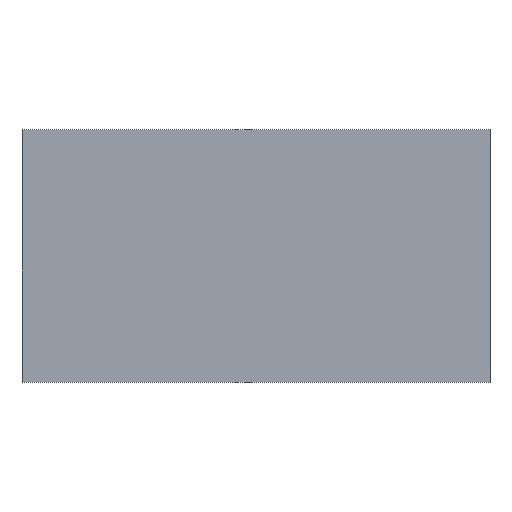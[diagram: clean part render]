
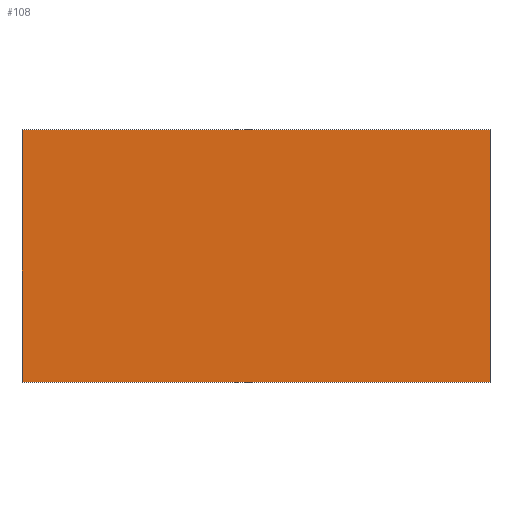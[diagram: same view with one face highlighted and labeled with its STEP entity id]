
A CAD part, top view. The second image highlights one B-rep face of the part: STEP entity #108.
In plain terms, the highlighted planar face has unit normal (0, 0, 1).
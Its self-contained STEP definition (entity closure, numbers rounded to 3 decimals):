
#3 = VERTEX_POINT ( 'NONE', #138 ) ;
#9 = CARTESIAN_POINT ( 'NONE',  ( -152., -82., 20. ) ) ;
#10 = PLANE ( 'NONE',  #125 ) ;
#11 = DIRECTION ( 'NONE',  ( -1., 0., 0. ) ) ;
#12 = DIRECTION ( 'NONE',  ( 0., -1., 0. ) ) ;
#31 = CARTESIAN_POINT ( 'NONE',  ( 152., -82., 20. ) ) ;
#39 = EDGE_CURVE ( 'NONE', #45, #98, #64, .T. ) ;
#45 = VERTEX_POINT ( 'NONE', #173 ) ;
#46 = DIRECTION ( 'NONE',  ( -1., 0., 0. ) ) ;
#49 = ORIENTED_EDGE ( 'NONE', *, *, #180, .T. ) ;
#54 = LINE ( 'NONE', #9, #201 ) ;
#64 = LINE ( 'NONE', #137, #112 ) ;
#69 = DIRECTION ( 'NONE',  ( 1., 0., 0. ) ) ;
#80 = ORIENTED_EDGE ( 'NONE', *, *, #131, .T. ) ;
#86 = DIRECTION ( 'NONE',  ( 0., 1., 0. ) ) ;
#98 = VERTEX_POINT ( 'NONE', #194 ) ;
#103 = CARTESIAN_POINT ( 'NONE',  ( 0., 0., 20. ) ) ;
#108 = ADVANCED_FACE ( 'NONE', ( #176 ), #10, .F. ) ;
#112 = VECTOR ( 'NONE', #46, 1000. ) ;
#113 = ORIENTED_EDGE ( 'NONE', *, *, #39, .T. ) ;
#116 = ORIENTED_EDGE ( 'NONE', *, *, #155, .T. ) ;
#120 = CARTESIAN_POINT ( 'NONE',  ( 152., -82., 20. ) ) ;
#125 = AXIS2_PLACEMENT_3D ( 'NONE', #103, #163, #11 ) ;
#131 = EDGE_CURVE ( 'NONE', #98, #3, #191, .T. ) ;
#137 = CARTESIAN_POINT ( 'NONE',  ( -152., 82., 20. ) ) ;
#138 = CARTESIAN_POINT ( 'NONE',  ( -152., -82., 20. ) ) ;
#155 = EDGE_CURVE ( 'NONE', #190, #45, #229, .T. ) ;
#157 = VECTOR ( 'NONE', #12, 1000. ) ;
#162 = VECTOR ( 'NONE', #86, 1000. ) ;
#163 = DIRECTION ( 'NONE',  ( 0., 0., -1. ) ) ;
#173 = CARTESIAN_POINT ( 'NONE',  ( 152., 82., 20. ) ) ;
#176 = FACE_OUTER_BOUND ( 'NONE', #186, .T. ) ;
#180 = EDGE_CURVE ( 'NONE', #3, #190, #54, .T. ) ;
#186 = EDGE_LOOP ( 'NONE', ( #116, #113, #80, #49 ) ) ;
#190 = VERTEX_POINT ( 'NONE', #120 ) ;
#191 = LINE ( 'NONE', #208, #157 ) ;
#194 = CARTESIAN_POINT ( 'NONE',  ( -152., 82., 20. ) ) ;
#201 = VECTOR ( 'NONE', #69, 1000. ) ;
#208 = CARTESIAN_POINT ( 'NONE',  ( -152., -82., 20. ) ) ;
#229 = LINE ( 'NONE', #31, #162 ) ;
